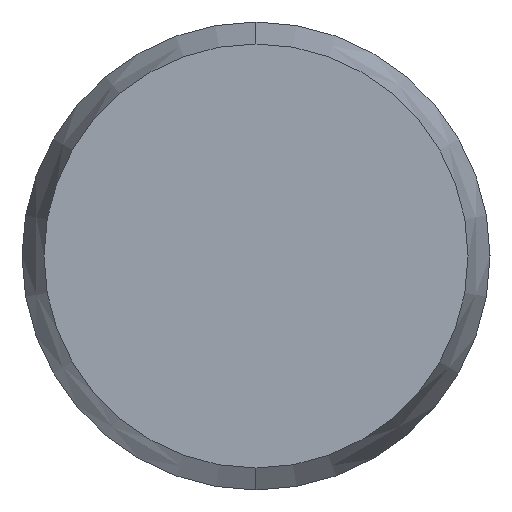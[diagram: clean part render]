
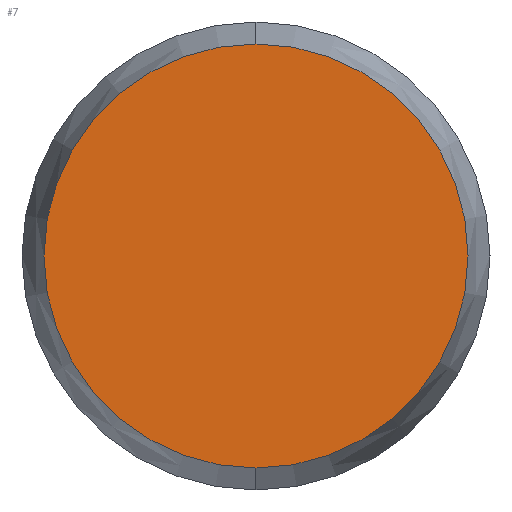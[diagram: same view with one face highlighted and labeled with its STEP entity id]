
A CAD part, left-side view. The second image highlights one B-rep face of the part: STEP entity #7.
In plain terms, the highlighted planar face has unit normal (-1, 0, 0).
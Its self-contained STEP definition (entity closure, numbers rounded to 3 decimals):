
#2 = EDGE_CURVE ( 'NONE', #52, #47, #84, .T. ) ;
#7 = ADVANCED_FACE ( 'NONE', ( #74 ), #71, .F. ) ;
#8 = EDGE_LOOP ( 'NONE', ( #9, #13 ) ) ;
#9 = ORIENTED_EDGE ( 'NONE', *, *, #50, .F. ) ;
#13 = ORIENTED_EDGE ( 'NONE', *, *, #2, .F. ) ;
#47 = VERTEX_POINT ( 'NONE', #122 ) ;
#50 = EDGE_CURVE ( 'NONE', #47, #52, #106, .T. ) ;
#52 = VERTEX_POINT ( 'NONE', #108 ) ;
#69 = AXIS2_PLACEMENT_3D ( 'NONE', #70, #72, #73 ) ;
#70 = CARTESIAN_POINT ( 'NONE',  ( -30., 0., 0. ) ) ;
#71 = PLANE ( 'NONE',  #69 ) ;
#72 = DIRECTION ( 'NONE',  ( 1., 0., 0. ) ) ;
#73 = DIRECTION ( 'NONE',  ( 0., 0., -1. ) ) ;
#74 = FACE_OUTER_BOUND ( 'NONE', #8, .T. ) ;
#81 = CARTESIAN_POINT ( 'NONE',  ( -30., 0., 0. ) ) ;
#82 = DIRECTION ( 'NONE',  ( 0., 0., -1. ) ) ;
#83 = AXIS2_PLACEMENT_3D ( 'NONE', #81, #85, #82 ) ;
#84 = CIRCLE ( 'NONE', #83, 1.812 ) ;
#85 = DIRECTION ( 'NONE',  ( 1., 0., 0. ) ) ;
#103 = CARTESIAN_POINT ( 'NONE',  ( -30., 0., 0. ) ) ;
#104 = DIRECTION ( 'NONE',  ( 0., 0., -1. ) ) ;
#105 = AXIS2_PLACEMENT_3D ( 'NONE', #103, #107, #104 ) ;
#106 = CIRCLE ( 'NONE', #105, 1.812 ) ;
#107 = DIRECTION ( 'NONE',  ( 1., 0., 0. ) ) ;
#108 = CARTESIAN_POINT ( 'NONE',  ( -30., 0., -1.812 ) ) ;
#122 = CARTESIAN_POINT ( 'NONE',  ( -30., 0., 1.812 ) ) ;
